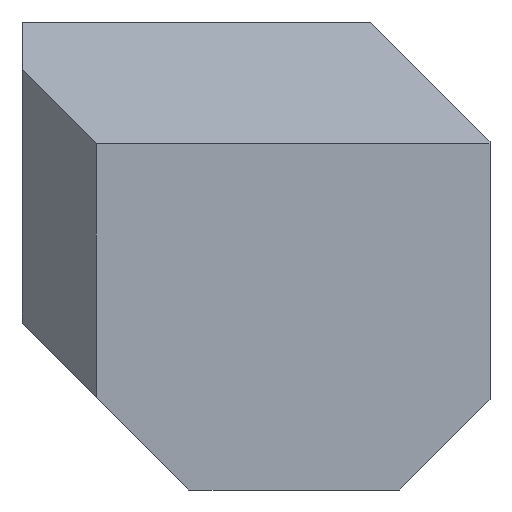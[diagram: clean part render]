
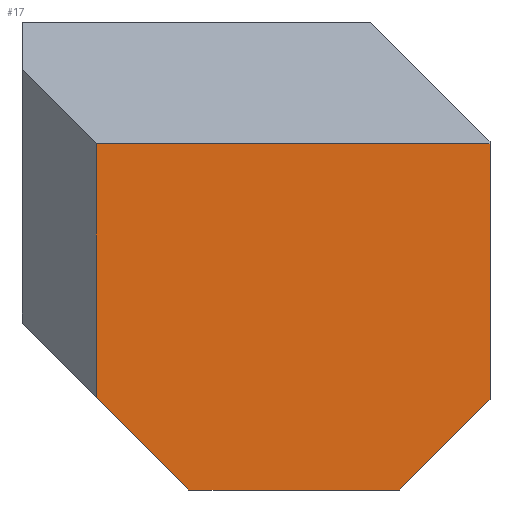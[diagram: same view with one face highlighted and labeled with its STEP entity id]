
A CAD part, front view. The second image highlights one B-rep face of the part: STEP entity #17.
In plain terms, the highlighted planar face has unit normal (0, -1, 0).
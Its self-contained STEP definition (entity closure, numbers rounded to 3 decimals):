
#17 = ADVANCED_FACE('',(#18),#32,.F.);
#18 = FACE_BOUND('',#19,.T.);
#19 = EDGE_LOOP('',(#20,#55,#83,#111,#139,#167));
#20 = ORIENTED_EDGE('',*,*,#21,.T.);
#21 = EDGE_CURVE('',#22,#24,#26,.T.);
#22 = VERTEX_POINT('',#23);
#23 = CARTESIAN_POINT('',(-5.729,-20.,-20.));
#24 = VERTEX_POINT('',#25);
#25 = CARTESIAN_POINT('',(12.241,-20.,-20.));
#26 = SURFACE_CURVE('',#27,(#31,#43),.PCURVE_S1.);
#27 = LINE('',#28,#29);
#28 = CARTESIAN_POINT('',(-5.729,-20.,-20.));
#29 = VECTOR('',#30,1.);
#30 = DIRECTION('',(1.,0.,0.));
#31 = PCURVE('',#32,#37);
#32 = PLANE('',#33);
#33 = AXIS2_PLACEMENT_3D('',#34,#35,#36);
#34 = CARTESIAN_POINT('',(3.207,-20.,-7.524));
#35 = DIRECTION('',(-0.,1.,0.));
#36 = DIRECTION('',(0.,0.,-1.));
#37 = DEFINITIONAL_REPRESENTATION('',(#38),#42);
#38 = LINE('',#39,#40);
#39 = CARTESIAN_POINT('',(12.476,8.936));
#40 = VECTOR('',#41,1.);
#41 = DIRECTION('',(0.,-1.));
#42 = ( GEOMETRIC_REPRESENTATION_CONTEXT(2) 
PARAMETRIC_REPRESENTATION_CONTEXT() REPRESENTATION_CONTEXT('2D SPACE',''
  ) );
#43 = PCURVE('',#44,#49);
#44 = PLANE('',#45);
#45 = AXIS2_PLACEMENT_3D('',#46,#47,#48);
#46 = CARTESIAN_POINT('',(3.256,0.,-20.));
#47 = DIRECTION('',(0.,0.,1.));
#48 = DIRECTION('',(0.,1.,0.));
#49 = DEFINITIONAL_REPRESENTATION('',(#50),#54);
#50 = LINE('',#51,#52);
#51 = CARTESIAN_POINT('',(-20.,8.985));
#52 = VECTOR('',#53,1.);
#53 = DIRECTION('',(0.,-1.));
#54 = ( GEOMETRIC_REPRESENTATION_CONTEXT(2) 
PARAMETRIC_REPRESENTATION_CONTEXT() REPRESENTATION_CONTEXT('2D SPACE',''
  ) );
#55 = ORIENTED_EDGE('',*,*,#56,.T.);
#56 = EDGE_CURVE('',#24,#57,#59,.T.);
#57 = VERTEX_POINT('',#58);
#58 = CARTESIAN_POINT('',(20.,-20.,-12.241));
#59 = SURFACE_CURVE('',#60,(#64,#71),.PCURVE_S1.);
#60 = LINE('',#61,#62);
#61 = CARTESIAN_POINT('',(12.241,-20.,-20.));
#62 = VECTOR('',#63,1.);
#63 = DIRECTION('',(0.707,0.,0.707));
#64 = PCURVE('',#32,#65);
#65 = DEFINITIONAL_REPRESENTATION('',(#66),#70);
#66 = LINE('',#67,#68);
#67 = CARTESIAN_POINT('',(12.476,-9.034));
#68 = VECTOR('',#69,1.);
#69 = DIRECTION('',(-0.707,-0.707));
#70 = ( GEOMETRIC_REPRESENTATION_CONTEXT(2) 
PARAMETRIC_REPRESENTATION_CONTEXT() REPRESENTATION_CONTEXT('2D SPACE',''
  ) );
#71 = PCURVE('',#72,#77);
#72 = PLANE('',#73);
#73 = AXIS2_PLACEMENT_3D('',#74,#75,#76);
#74 = CARTESIAN_POINT('',(16.121,0.,-16.121));
#75 = DIRECTION('',(-0.707,0.,0.707));
#76 = DIRECTION('',(0.,1.,0.));
#77 = DEFINITIONAL_REPRESENTATION('',(#78),#82);
#78 = LINE('',#79,#80);
#79 = CARTESIAN_POINT('',(-20.,5.486));
#80 = VECTOR('',#81,1.);
#81 = DIRECTION('',(0.,-1.));
#82 = ( GEOMETRIC_REPRESENTATION_CONTEXT(2) 
PARAMETRIC_REPRESENTATION_CONTEXT() REPRESENTATION_CONTEXT('2D SPACE',''
  ) );
#83 = ORIENTED_EDGE('',*,*,#84,.T.);
#84 = EDGE_CURVE('',#57,#85,#87,.T.);
#85 = VERTEX_POINT('',#86);
#86 = CARTESIAN_POINT('',(20.,-20.,9.596));
#87 = SURFACE_CURVE('',#88,(#92,#99),.PCURVE_S1.);
#88 = LINE('',#89,#90);
#89 = CARTESIAN_POINT('',(20.,-20.,-12.241));
#90 = VECTOR('',#91,1.);
#91 = DIRECTION('',(0.,0.,1.));
#92 = PCURVE('',#32,#93);
#93 = DEFINITIONAL_REPRESENTATION('',(#94),#98);
#94 = LINE('',#95,#96);
#95 = CARTESIAN_POINT('',(4.717,-16.793));
#96 = VECTOR('',#97,1.);
#97 = DIRECTION('',(-1.,0.));
#98 = ( GEOMETRIC_REPRESENTATION_CONTEXT(2) 
PARAMETRIC_REPRESENTATION_CONTEXT() REPRESENTATION_CONTEXT('2D SPACE',''
  ) );
#99 = PCURVE('',#100,#105);
#100 = PLANE('',#101);
#101 = AXIS2_PLACEMENT_3D('',#102,#103,#104);
#102 = CARTESIAN_POINT('',(20.,-3.968,0.925));
#103 = DIRECTION('',(1.,0.,0.));
#104 = DIRECTION('',(0.,0.,1.));
#105 = DEFINITIONAL_REPRESENTATION('',(#106),#110);
#106 = LINE('',#107,#108);
#107 = CARTESIAN_POINT('',(-13.167,16.032));
#108 = VECTOR('',#109,1.);
#109 = DIRECTION('',(1.,0.));
#110 = ( GEOMETRIC_REPRESENTATION_CONTEXT(2) 
PARAMETRIC_REPRESENTATION_CONTEXT() REPRESENTATION_CONTEXT('2D SPACE',''
  ) );
#111 = ORIENTED_EDGE('',*,*,#112,.T.);
#112 = EDGE_CURVE('',#85,#113,#115,.T.);
#113 = VERTEX_POINT('',#114);
#114 = CARTESIAN_POINT('',(-13.636,-20.,9.596));
#115 = SURFACE_CURVE('',#116,(#120,#127),.PCURVE_S1.);
#116 = LINE('',#117,#118);
#117 = CARTESIAN_POINT('',(20.,-20.,9.596));
#118 = VECTOR('',#119,1.);
#119 = DIRECTION('',(-1.,0.,0.));
#120 = PCURVE('',#32,#121);
#121 = DEFINITIONAL_REPRESENTATION('',(#122),#126);
#122 = LINE('',#123,#124);
#123 = CARTESIAN_POINT('',(-17.12,-16.793));
#124 = VECTOR('',#125,1.);
#125 = DIRECTION('',(-0.,1.));
#126 = ( GEOMETRIC_REPRESENTATION_CONTEXT(2) 
PARAMETRIC_REPRESENTATION_CONTEXT() REPRESENTATION_CONTEXT('2D SPACE',''
  ) );
#127 = PCURVE('',#128,#133);
#128 = PLANE('',#129);
#129 = AXIS2_PLACEMENT_3D('',#130,#131,#132);
#130 = CARTESIAN_POINT('',(-0.646,-15.445,
    14.152));
#131 = DIRECTION('',(0.,-0.707,0.707));
#132 = DIRECTION('',(-0.,0.707,0.707));
#133 = DEFINITIONAL_REPRESENTATION('',(#134),#138);
#134 = LINE('',#135,#136);
#135 = CARTESIAN_POINT('',(-6.442,-20.646));
#136 = VECTOR('',#137,1.);
#137 = DIRECTION('',(0.,1.));
#138 = ( GEOMETRIC_REPRESENTATION_CONTEXT(2) 
PARAMETRIC_REPRESENTATION_CONTEXT() REPRESENTATION_CONTEXT('2D SPACE',''
  ) );
#139 = ORIENTED_EDGE('',*,*,#140,.T.);
#140 = EDGE_CURVE('',#113,#141,#143,.T.);
#141 = VERTEX_POINT('',#142);
#142 = CARTESIAN_POINT('',(-13.636,-20.,-12.093));
#143 = SURFACE_CURVE('',#144,(#148,#155),.PCURVE_S1.);
#144 = LINE('',#145,#146);
#145 = CARTESIAN_POINT('',(-13.636,-20.,9.596));
#146 = VECTOR('',#147,1.);
#147 = DIRECTION('',(0.,0.,-1.));
#148 = PCURVE('',#32,#149);
#149 = DEFINITIONAL_REPRESENTATION('',(#150),#154);
#150 = LINE('',#151,#152);
#151 = CARTESIAN_POINT('',(-17.12,16.842));
#152 = VECTOR('',#153,1.);
#153 = DIRECTION('',(1.,0.));
#154 = ( GEOMETRIC_REPRESENTATION_CONTEXT(2) 
PARAMETRIC_REPRESENTATION_CONTEXT() REPRESENTATION_CONTEXT('2D SPACE',''
  ) );
#155 = PCURVE('',#156,#161);
#156 = PLANE('',#157);
#157 = AXIS2_PLACEMENT_3D('',#158,#159,#160);
#158 = CARTESIAN_POINT('',(-16.818,-16.818,1.934
    ));
#159 = DIRECTION('',(-0.707,-0.707,0.)
  );
#160 = DIRECTION('',(0.,0.,1.));
#161 = DEFINITIONAL_REPRESENTATION('',(#162),#166);
#162 = LINE('',#163,#164);
#163 = CARTESIAN_POINT('',(7.663,-4.5));
#164 = VECTOR('',#165,1.);
#165 = DIRECTION('',(-1.,0.));
#166 = ( GEOMETRIC_REPRESENTATION_CONTEXT(2) 
PARAMETRIC_REPRESENTATION_CONTEXT() REPRESENTATION_CONTEXT('2D SPACE',''
  ) );
#167 = ORIENTED_EDGE('',*,*,#168,.T.);
#168 = EDGE_CURVE('',#141,#22,#169,.T.);
#169 = SURFACE_CURVE('',#170,(#174,#181),.PCURVE_S1.);
#170 = LINE('',#171,#172);
#171 = CARTESIAN_POINT('',(-13.636,-20.,-12.093));
#172 = VECTOR('',#173,1.);
#173 = DIRECTION('',(0.707,0.,-0.707)
  );
#174 = PCURVE('',#32,#175);
#175 = DEFINITIONAL_REPRESENTATION('',(#176),#180);
#176 = LINE('',#177,#178);
#177 = CARTESIAN_POINT('',(4.57,16.842));
#178 = VECTOR('',#179,1.);
#179 = DIRECTION('',(0.707,-0.707));
#180 = ( GEOMETRIC_REPRESENTATION_CONTEXT(2) 
PARAMETRIC_REPRESENTATION_CONTEXT() REPRESENTATION_CONTEXT('2D SPACE',''
  ) );
#181 = PCURVE('',#182,#187);
#182 = PLANE('',#183);
#183 = AXIS2_PLACEMENT_3D('',#184,#185,#186);
#184 = CARTESIAN_POINT('',(-13.019,-2.727,
    -12.71));
#185 = DIRECTION('',(-0.707,0.,-0.707
    ));
#186 = DIRECTION('',(0.,-1.,0.));
#187 = DEFINITIONAL_REPRESENTATION('',(#188),#192);
#188 = LINE('',#189,#190);
#189 = CARTESIAN_POINT('',(17.273,0.872));
#190 = VECTOR('',#191,1.);
#191 = DIRECTION('',(0.,-1.));
#192 = ( GEOMETRIC_REPRESENTATION_CONTEXT(2) 
PARAMETRIC_REPRESENTATION_CONTEXT() REPRESENTATION_CONTEXT('2D SPACE',''
  ) );
